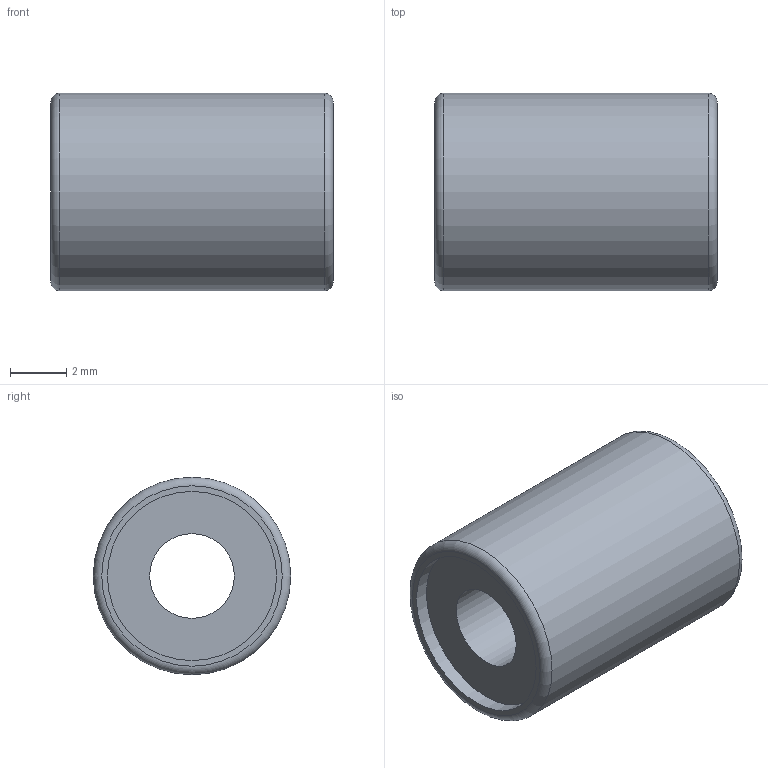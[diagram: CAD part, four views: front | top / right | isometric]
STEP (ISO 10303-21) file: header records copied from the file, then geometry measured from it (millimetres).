
FILE_DESCRIPTION( ( 'Unknown' ), '1' );
FILE_NAME( 'D:/累诀/己绕皋墨飘肺葱胶/11-04-06_档搁累己/01_府聪绢何教/LM/LM3.stp', 'Unknown', ( 'Unknown' ), ( 'Unknown' ), 'PSStep 11.0', 'Unknown', ' ' );
FILE_SCHEMA( ( 'AUTOMOTIVE_DESIGN { 1 0 10303 214 1 1 1 1 }' ) );
Length unit declared in the file: millimetre
Products named in the file (1): 1
Bounding box: 10 x 7 x 7 mm (x, y, z)
Volume: 292.1 mm3; surface area: 380.7 mm2
Topology: 1 solids, 1 shells, 10 faces, 17 edges, 11 vertices
Faces by surface type: plane 4, cylinder 4, torus 2
Full cylindrical faces by diameter (mm): 3 x1, 6 x2, 7 x1
Entity records: 304 total; most frequent: DIRECTION 42, CARTESIAN_POINT 31, AXIS2_PLACEMENT_3D 21, EDGE_LOOP 20, ORIENTED_EDGE 20, FACE_OUTER_BOUND 16, STYLED_ITEM 10, PRESENTATION_STYLE_ASSIGNMENT 10
